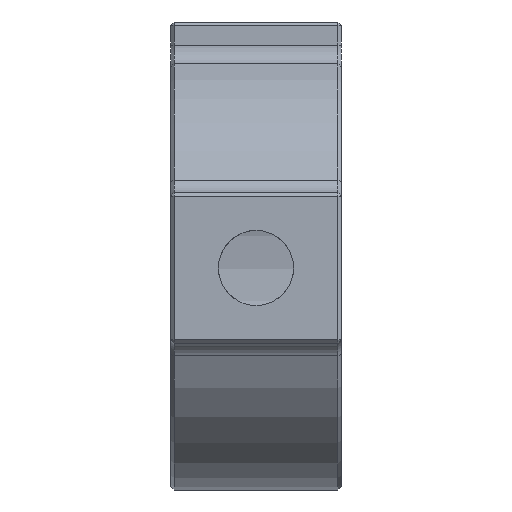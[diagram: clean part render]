
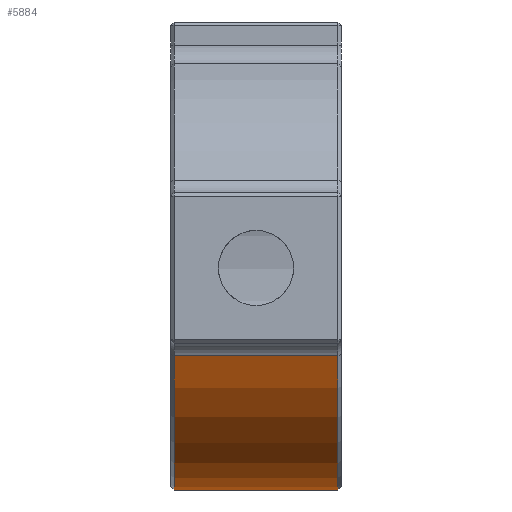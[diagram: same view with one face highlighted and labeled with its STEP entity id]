
A CAD part, left-side view. The second image highlights one B-rep face of the part: STEP entity #5884.
In plain terms, the highlighted cylindrical face has radius 32.5 mm (diameter 65 mm), a partial arc.
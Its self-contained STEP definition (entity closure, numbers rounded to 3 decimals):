
#97 = CIRCLE ( 'NONE', #5056, 32.5 ) ;
#768 = EDGE_LOOP ( 'NONE', ( #6268, #6666, #6927, #3616 ) ) ;
#1158 = FACE_OUTER_BOUND ( 'NONE', #768, .T. ) ;
#1228 = AXIS2_PLACEMENT_3D ( 'NONE', #6340, #4115, #7697 ) ;
#1330 = VERTEX_POINT ( 'NONE', #1451 ) ;
#1451 = CARTESIAN_POINT ( 'NONE',  ( -29.866, 0.5, -12.817 ) ) ;
#1487 = LINE ( 'NONE', #8430, #6570 ) ;
#1578 = CARTESIAN_POINT ( 'NONE',  ( 27.386, 24.5, -17.5 ) ) ;
#1765 = DIRECTION ( 'NONE',  ( 0., -1., 0. ) ) ;
#2124 = CARTESIAN_POINT ( 'NONE',  ( -29.866, 24.5, -12.817 ) ) ;
#2404 = EDGE_CURVE ( 'NONE', #1330, #5184, #1487, .T. ) ;
#2523 = CYLINDRICAL_SURFACE ( 'NONE', #3024, 32.5 ) ;
#2820 = EDGE_CURVE ( 'NONE', #8280, #1330, #97, .T. ) ;
#3024 = AXIS2_PLACEMENT_3D ( 'NONE', #5295, #1765, #3938 ) ;
#3616 = ORIENTED_EDGE ( 'NONE', *, *, #7376, .T. ) ;
#3938 = DIRECTION ( 'NONE',  ( 0., 0., -1. ) ) ;
#4115 = DIRECTION ( 'NONE',  ( 0., -1., 0. ) ) ;
#4125 = CARTESIAN_POINT ( 'NONE',  ( 27.386, 25., -17.5 ) ) ;
#4669 = CARTESIAN_POINT ( 'NONE',  ( 0., 0.5, 0. ) ) ;
#4718 = DIRECTION ( 'NONE',  ( 0., 0., 1. ) ) ;
#5056 = AXIS2_PLACEMENT_3D ( 'NONE', #4669, #6885, #4718 ) ;
#5184 = VERTEX_POINT ( 'NONE', #2124 ) ;
#5295 = CARTESIAN_POINT ( 'NONE',  ( 0., 25., 0. ) ) ;
#5529 = LINE ( 'NONE', #4125, #8599 ) ;
#5884 = ADVANCED_FACE ( 'NONE', ( #1158 ), #2523, .T. ) ;
#6099 = EDGE_CURVE ( 'NONE', #9039, #8280, #5529, .T. ) ;
#6268 = ORIENTED_EDGE ( 'NONE', *, *, #6099, .T. ) ;
#6340 = CARTESIAN_POINT ( 'NONE',  ( 0., 24.5, 0. ) ) ;
#6570 = VECTOR ( 'NONE', #7903, 1000. ) ;
#6666 = ORIENTED_EDGE ( 'NONE', *, *, #2820, .T. ) ;
#6885 = DIRECTION ( 'NONE',  ( 0., 1., 0. ) ) ;
#6927 = ORIENTED_EDGE ( 'NONE', *, *, #2404, .T. ) ;
#7376 = EDGE_CURVE ( 'NONE', #5184, #9039, #8141, .T. ) ;
#7697 = DIRECTION ( 'NONE',  ( 0., 0., 1. ) ) ;
#7903 = DIRECTION ( 'NONE',  ( 0., 1., 0. ) ) ;
#8141 = CIRCLE ( 'NONE', #1228, 32.5 ) ;
#8280 = VERTEX_POINT ( 'NONE', #8396 ) ;
#8396 = CARTESIAN_POINT ( 'NONE',  ( 27.386, 0.5, -17.5 ) ) ;
#8430 = CARTESIAN_POINT ( 'NONE',  ( -29.866, 25., -12.817 ) ) ;
#8599 = VECTOR ( 'NONE', #9163, 1000. ) ;
#9039 = VERTEX_POINT ( 'NONE', #1578 ) ;
#9163 = DIRECTION ( 'NONE',  ( 0., -1., 0. ) ) ;
